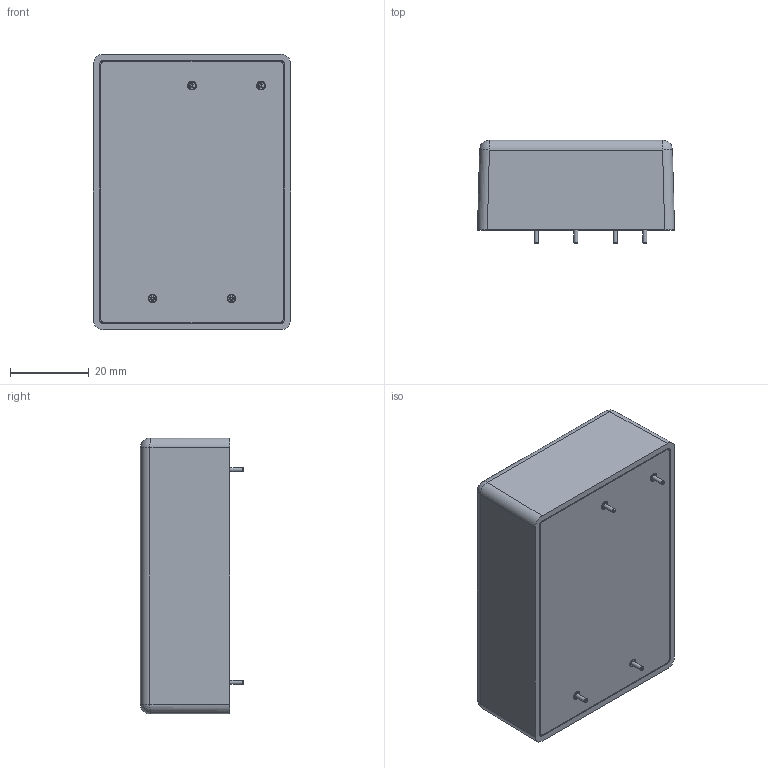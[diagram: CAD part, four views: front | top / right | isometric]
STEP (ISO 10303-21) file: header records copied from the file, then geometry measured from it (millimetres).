
FILE_DESCRIPTION((''),'2;1');
FILE_NAME('W:\mechanical\機構工程圖\3D圖檔\3D Outline-2020\已完成待審核\PM-10.stp','2020-07-15T14:41:25',('shirley'),(''),'Autodesk Inventor 2010','Autodesk Inventor 2010','');
FILE_SCHEMA(('AUTOMOTIVE_DESIGN { 1 0 10303 214 1 1 1 1 }'));
Length unit declared in the file: millimetre
Products named in the file (12): PM-10; 949A-D; 1HH3; NFM-10; PCB; VR-1; LED; PIN; C2; C5; C1; T1
Assembly tree (14 placements, depth 3):
  PM-10
    949A-D
    1HH3
    NFM-10
      PCB
      VR-1
      LED
      PIN  x4
      C2
      C5
      C1
      T1
Bounding box: 50 x 26.2 x 70 mm (x, y, z)
Volume: 28592.5 mm3; surface area: 34254.5 mm2
Topology: 13 solids, 13 shells, 152 faces, 317 edges, 202 vertices
Faces by surface type: plane 93, cylinder 42, torus 9, sphere 4, bspline 4
Full cylindrical faces by diameter (mm): 0.8 x3, 1.04 x8, 1.05 x4, 1.8 x4, 2.2 x4, 6.747 x1, 8.5 x1, 12.5 x1
Entity records: 3965 total; most frequent: CARTESIAN_POINT 725, DIRECTION 620, ORIENTED_EDGE 514, EDGE_CURVE 257, AXIS2_PLACEMENT_3D 223, VERTEX_POINT 180, EDGE_LOOP 175, VECTOR 174
